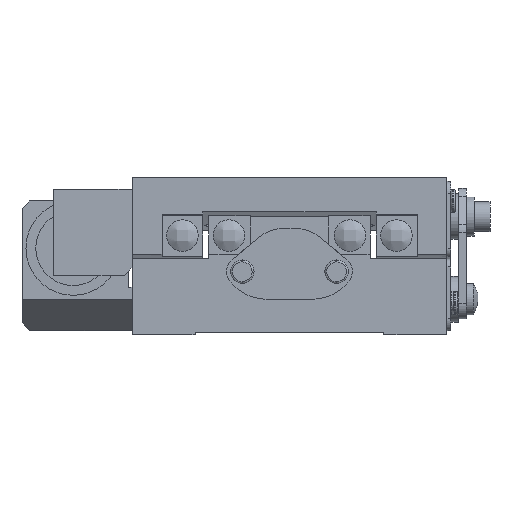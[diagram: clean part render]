
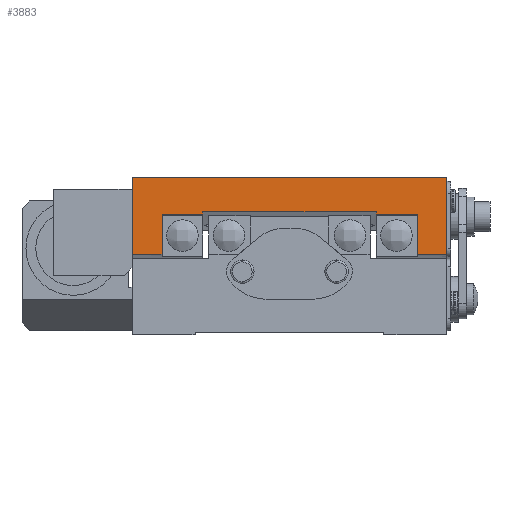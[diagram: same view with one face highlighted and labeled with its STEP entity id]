
A CAD part, left-side view. The second image highlights one B-rep face of the part: STEP entity #3883.
In plain terms, the highlighted planar face has unit normal (-1, 0, 0).
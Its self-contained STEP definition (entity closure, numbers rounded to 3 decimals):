
#321 = VECTOR ( 'NONE', #1623, 1000. ) ;
#612 = CARTESIAN_POINT ( 'NONE',  ( -20., -11.05, 8. ) ) ;
#723 = ORIENTED_EDGE ( 'NONE', *, *, #8943, .F. ) ;
#768 = VERTEX_POINT ( 'NONE', #9135 ) ;
#806 = ORIENTED_EDGE ( 'NONE', *, *, #11055, .T. ) ;
#954 = CARTESIAN_POINT ( 'NONE',  ( -20., 0., 15.33 ) ) ;
#1096 = LINE ( 'NONE', #1393, #10301 ) ;
#1393 = CARTESIAN_POINT ( 'NONE',  ( -20., 20., 8. ) ) ;
#1425 = CARTESIAN_POINT ( 'NONE',  ( -20., -20., 20. ) ) ;
#1484 = EDGE_CURVE ( 'NONE', #768, #3917, #3929, .T. ) ;
#1587 = DIRECTION ( 'NONE',  ( 0., 0., -1. ) ) ;
#1623 = DIRECTION ( 'NONE',  ( 0., 0., -1. ) ) ;
#1685 = PLANE ( 'NONE',  #14672 ) ;
#1783 = LINE ( 'NONE', #4040, #4306 ) ;
#1836 = VECTOR ( 'NONE', #3622, 1000. ) ;
#2192 = CARTESIAN_POINT ( 'NONE',  ( -20., 11.05, 8. ) ) ;
#2444 = CARTESIAN_POINT ( 'NONE',  ( -20., 0., 10.2 ) ) ;
#2716 = EDGE_CURVE ( 'NONE', #4217, #7424, #6554, .T. ) ;
#3054 = VECTOR ( 'NONE', #8158, 1000. ) ;
#3171 = DIRECTION ( 'NONE',  ( 0., -1., 0. ) ) ;
#3192 = CARTESIAN_POINT ( 'NONE',  ( -20., 20., 20. ) ) ;
#3207 = DIRECTION ( 'NONE',  ( 0., -1., 0. ) ) ;
#3305 = VECTOR ( 'NONE', #9910, 1000. ) ;
#3442 = CARTESIAN_POINT ( 'NONE',  ( -20., 16.2, 10.2 ) ) ;
#3531 = VERTEX_POINT ( 'NONE', #9393 ) ;
#3622 = DIRECTION ( 'NONE',  ( 0., 0., -1. ) ) ;
#3645 = ORIENTED_EDGE ( 'NONE', *, *, #2716, .T. ) ;
#3883 = ADVANCED_FACE ( 'NONE', ( #6538 ), #1685, .T. ) ;
#3917 = VERTEX_POINT ( 'NONE', #8592 ) ;
#3929 = LINE ( 'NONE', #2192, #11504 ) ;
#3974 = LINE ( 'NONE', #954, #6672 ) ;
#4040 = CARTESIAN_POINT ( 'NONE',  ( -20., 0., 15.33 ) ) ;
#4187 = VERTEX_POINT ( 'NONE', #9030 ) ;
#4217 = VERTEX_POINT ( 'NONE', #3442 ) ;
#4306 = VECTOR ( 'NONE', #9817, 1000. ) ;
#4586 = VERTEX_POINT ( 'NONE', #8719 ) ;
#5211 = EDGE_CURVE ( 'NONE', #10974, #10643, #3974, .T. ) ;
#5303 = CARTESIAN_POINT ( 'NONE',  ( -20., -16.3, 15.33 ) ) ;
#5403 = ORIENTED_EDGE ( 'NONE', *, *, #12523, .T. ) ;
#5841 = ORIENTED_EDGE ( 'NONE', *, *, #11595, .T. ) ;
#5962 = LINE ( 'NONE', #6281, #7909 ) ;
#6057 = DIRECTION ( 'NONE',  ( 0., 0., 1. ) ) ;
#6281 = CARTESIAN_POINT ( 'NONE',  ( -20., 0., 10.2 ) ) ;
#6321 = DIRECTION ( 'NONE',  ( 0., -1., 0. ) ) ;
#6383 = ORIENTED_EDGE ( 'NONE', *, *, #1484, .T. ) ;
#6495 = CARTESIAN_POINT ( 'NONE',  ( -20., 16.2, 8. ) ) ;
#6538 = FACE_OUTER_BOUND ( 'NONE', #7959, .T. ) ;
#6554 = LINE ( 'NONE', #6495, #3305 ) ;
#6672 = VECTOR ( 'NONE', #3207, 1000. ) ;
#7171 = VERTEX_POINT ( 'NONE', #3192 ) ;
#7424 = VERTEX_POINT ( 'NONE', #13977 ) ;
#7734 = EDGE_CURVE ( 'NONE', #7748, #4586, #14343, .T. ) ;
#7748 = VERTEX_POINT ( 'NONE', #1425 ) ;
#7760 = ORIENTED_EDGE ( 'NONE', *, *, #8265, .F. ) ;
#7909 = VECTOR ( 'NONE', #6321, 1000. ) ;
#7959 = EDGE_LOOP ( 'NONE', ( #11260, #8945, #806, #9978, #11315, #723, #7760, #5841, #3645, #5403, #6383, #14529 ) ) ;
#8158 = DIRECTION ( 'NONE',  ( 0., -1., 0. ) ) ;
#8265 = EDGE_CURVE ( 'NONE', #13420, #7171, #1096, .T. ) ;
#8312 = LINE ( 'NONE', #10727, #1836 ) ;
#8592 = CARTESIAN_POINT ( 'NONE',  ( -20., 11.05, 15.638 ) ) ;
#8719 = CARTESIAN_POINT ( 'NONE',  ( -20., -20., 10.2 ) ) ;
#8943 = EDGE_CURVE ( 'NONE', #7171, #7748, #11393, .T. ) ;
#8945 = ORIENTED_EDGE ( 'NONE', *, *, #5211, .T. ) ;
#9030 = CARTESIAN_POINT ( 'NONE',  ( -20., -11.05, 15.638 ) ) ;
#9135 = CARTESIAN_POINT ( 'NONE',  ( -20., 11.05, 15.33 ) ) ;
#9393 = CARTESIAN_POINT ( 'NONE',  ( -20., -16.3, 10.2 ) ) ;
#9794 = VECTOR ( 'NONE', #1587, 1000. ) ;
#9817 = DIRECTION ( 'NONE',  ( 0., -1., 0. ) ) ;
#9866 = CARTESIAN_POINT ( 'NONE',  ( -20., 0., 20. ) ) ;
#9895 = CARTESIAN_POINT ( 'NONE',  ( -20., 0., 8. ) ) ;
#9910 = DIRECTION ( 'NONE',  ( 0., 0., 1. ) ) ;
#9978 = ORIENTED_EDGE ( 'NONE', *, *, #13027, .T. ) ;
#10074 = CARTESIAN_POINT ( 'NONE',  ( -20., 20., 10.2 ) ) ;
#10230 = LINE ( 'NONE', #2444, #3054 ) ;
#10301 = VECTOR ( 'NONE', #6057, 1000. ) ;
#10606 = CARTESIAN_POINT ( 'NONE',  ( -20., -20., 8. ) ) ;
#10643 = VERTEX_POINT ( 'NONE', #5303 ) ;
#10727 = CARTESIAN_POINT ( 'NONE',  ( -20., -16.3, 8. ) ) ;
#10974 = VERTEX_POINT ( 'NONE', #12953 ) ;
#11027 = DIRECTION ( 'NONE',  ( 0., -1., 0. ) ) ;
#11055 = EDGE_CURVE ( 'NONE', #10643, #3531, #8312, .T. ) ;
#11260 = ORIENTED_EDGE ( 'NONE', *, *, #12797, .T. ) ;
#11315 = ORIENTED_EDGE ( 'NONE', *, *, #7734, .F. ) ;
#11393 = LINE ( 'NONE', #9866, #12134 ) ;
#11504 = VECTOR ( 'NONE', #12743, 1000. ) ;
#11595 = EDGE_CURVE ( 'NONE', #13420, #4217, #5962, .T. ) ;
#11869 = VECTOR ( 'NONE', #14322, 1000. ) ;
#12134 = VECTOR ( 'NONE', #3171, 1000. ) ;
#12148 = DIRECTION ( 'NONE',  ( -1., 0., 0. ) ) ;
#12523 = EDGE_CURVE ( 'NONE', #7424, #768, #1783, .T. ) ;
#12620 = LINE ( 'NONE', #612, #321 ) ;
#12743 = DIRECTION ( 'NONE',  ( 0., 0., 1. ) ) ;
#12797 = EDGE_CURVE ( 'NONE', #4187, #10974, #12620, .T. ) ;
#12953 = CARTESIAN_POINT ( 'NONE',  ( -20., -11.05, 15.33 ) ) ;
#13027 = EDGE_CURVE ( 'NONE', #3531, #4586, #10230, .T. ) ;
#13420 = VERTEX_POINT ( 'NONE', #10074 ) ;
#13977 = CARTESIAN_POINT ( 'NONE',  ( -20., 16.2, 15.33 ) ) ;
#14265 = CARTESIAN_POINT ( 'NONE',  ( -20., 0., 15.638 ) ) ;
#14322 = DIRECTION ( 'NONE',  ( 0., -1., 0. ) ) ;
#14343 = LINE ( 'NONE', #10606, #9794 ) ;
#14413 = EDGE_CURVE ( 'NONE', #3917, #4187, #14927, .T. ) ;
#14529 = ORIENTED_EDGE ( 'NONE', *, *, #14413, .T. ) ;
#14672 = AXIS2_PLACEMENT_3D ( 'NONE', #9895, #12148, #11027 ) ;
#14927 = LINE ( 'NONE', #14265, #11869 ) ;
